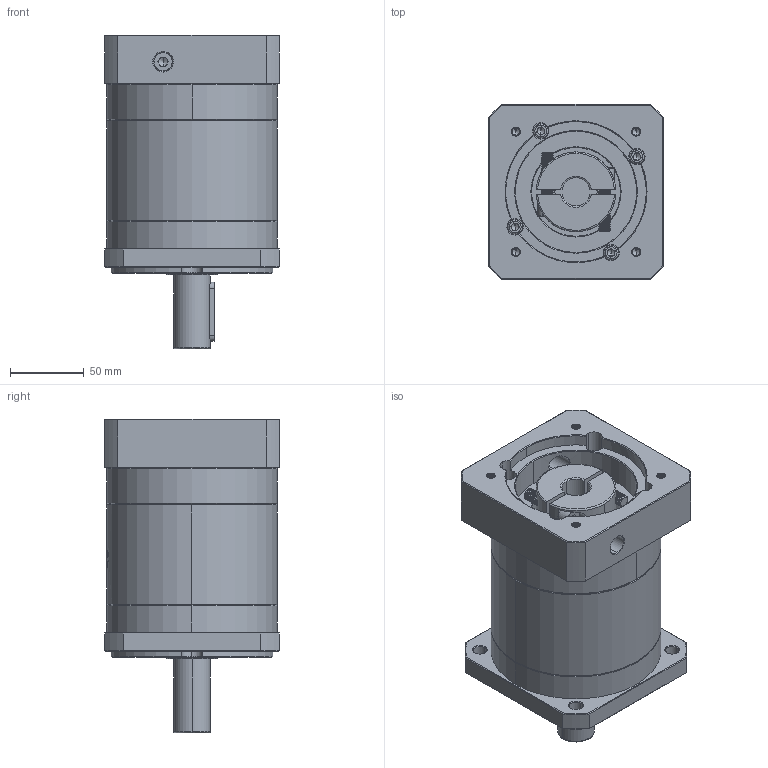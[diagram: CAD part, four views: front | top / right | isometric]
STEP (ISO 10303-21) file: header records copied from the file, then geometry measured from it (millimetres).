
FILE_DESCRIPTION (( 'STEP AP214' ), '1' );
FILE_NAME ('ZF120A-D25-L2-P2-19-95-115-M6.step', '2023-08-27T04:39:53', ( '' ), ( '' ), 'SwSTEP 2.0', 'SolidWorks 2016', '' );
FILE_SCHEMA (( 'AUTOMOTIVE_DESIGN' ));
Length unit declared in the file: millimetre
Products named in the file (1): ZF120A-D25-L2-P2-19-95-115-M6
Bounding box: 118 x 118 x 212 mm (x, y, z)
Volume: 1660212.6 mm3; surface area: 168590.6 mm2
Topology: 6 solids, 6 shells, 2235 faces, 5956 edges, 3822 vertices
Faces by surface type: plane 1034, bspline 439, cylinder 421, cone 341
Entity records: 122828 total; most frequent: CARTESIAN_POINT 48023, ORIENTED_EDGE 11852, DIRECTION 8606, EDGE_CURVE 5926, VERTEX_POINT 3822, VECTOR 3100, LINE 3100, AXIS2_PLACEMENT_3D 2753
